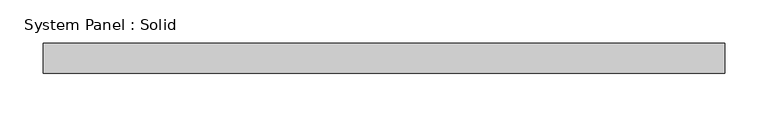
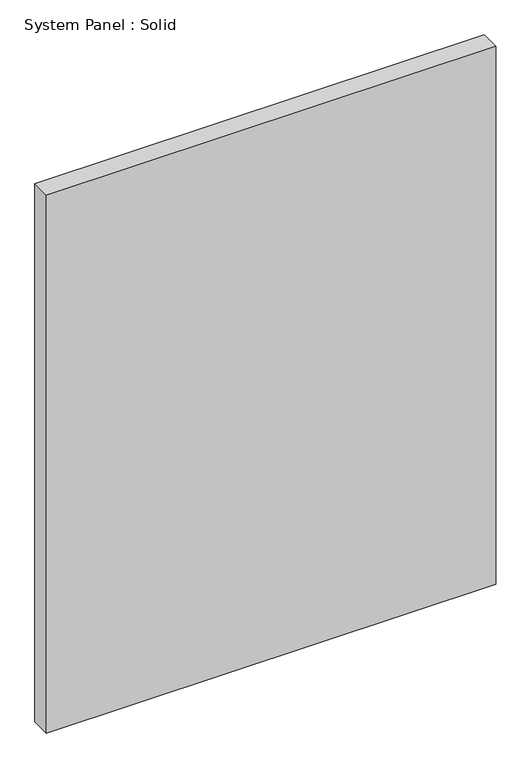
"""IFC4 building model written with IfcOpenShell, lengths in millimetres: plate geometry, System Panel : Solid."""

from ifc_helpers import new_model, si_unit, origin, origin_with_axes, place, context, project, spatial, polyline, outline, extrude, source, transform, mapped, element, save


def system_panel_solid_5210ac0e(model_context):
    return source(origin(), model_context, "Body", "SweptSolid", [
        extrude(outline(polyline([(394.9999998, -2.5), (-394.9999998, -2.5), (-394.9999998, 32.5), (394.9999998, 32.5), (394.9999998, -2.5)])), origin_with_axes(), (0.0, 0.0, 1.0), 1000.0),
    ])


if __name__ == "__main__":
    model = new_model("IFC4")
    model_context = context("Model", 3, world=origin())
    ifc_project = project(units=[si_unit("LENGTHUNIT", "METRE", prefix="MILLI")], contexts=[model_context])
    site = spatial("IfcSite", under=ifc_project)
    building = spatial("IfcBuilding", under=site)
    placement = place(None, origin())
    system_panel_solid_shape = system_panel_solid_5210ac0e(model_context)
    element("IfcPlate", 1, ObjectType="System Panel : Solid", at=placement, inside=building, context=model_context, shape_type="MappedRepresentation", body=[
        mapped(system_panel_solid_shape, transform((0.0, 0.0, 0.0), x_axis=(1.0, 0.0, 0.0), y_axis=(0.0, 1.0, 0.0), z_axis=(0.0, 0.0, 1.0))),
    ])
    save(model, "model.ifc")
